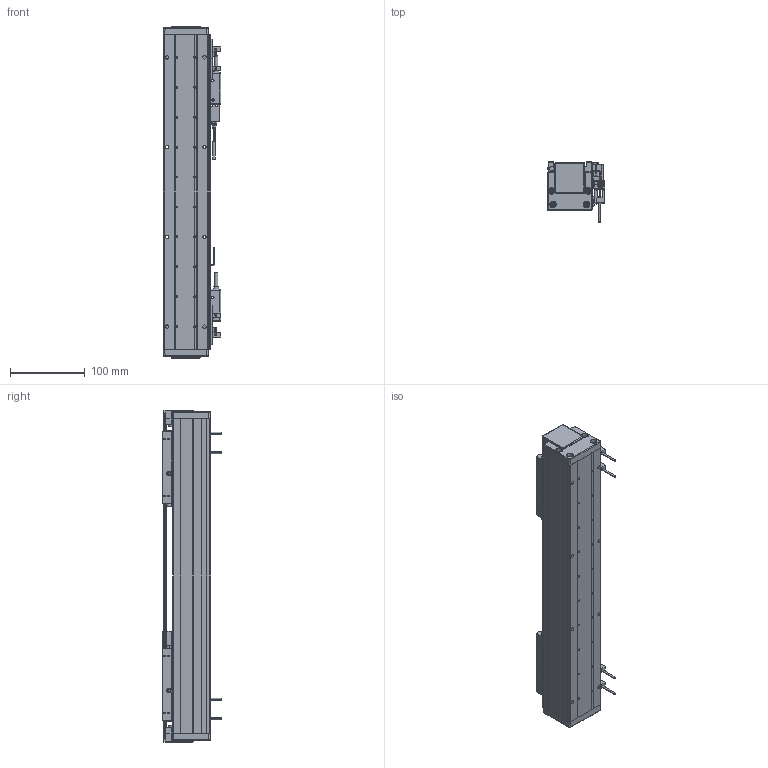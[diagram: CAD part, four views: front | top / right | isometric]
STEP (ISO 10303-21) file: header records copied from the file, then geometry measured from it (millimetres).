
FILE_DESCRIPTION (( 'STEP AP203' ), '1' );
FILE_NAME ('DA-A60-2-B1-T180-C010-0.2 眻盄萇儂.STEP', '2025-08-13T01:05:33', ( '' ), ( '' ), 'SwSTEP 2.0', 'SolidWorks 2019', '' );
FILE_SCHEMA (( 'CONFIG_CONTROL_DESIGN' ));
Length unit declared in the file: millimetre
Products named in the file (27): DA60-YT-B1-HT-B-01 珨极趙賑雄怢啣; ｸｴｼ DA-A60-GYP-DMT-00 ｹ箏邵ﾐﾓｦﾆｬ^DA-A60-2-B1-T60-C010-0.2-N(ﾄｬﾈﾏ); 葩璃 DA60-XJ-00 砎蝶結輸^DA-A60-2-B1-T60-C010-0.2-N; 复件 DA60-B1-GT-00 滑块钢轨^DA60-YT-B1-HT-B-01 一体化滑动台板; DA-A60-2-B1-T180-C010-0.2 眻盄萇儂; ｸｴｼ BAKM01-W030-C1-TP-0.2 ﾖｱﾏﾟｵ扈巐ｯﾗﾓ^DA-A60-2-B1-T60-C010-0.2-N; DA60-T-002-00  裔啣; 葩璃 DA60-DMT-DTJ-00 黍杅芛盓殤^DA-A60-2-B1-T60-C010-0.2-N; 复件 DA60-HC-XJ-01 中间缓冲橡胶^DA-A60-2-B1-T60-C010-0.2-N; DA60-YT-B1-HT-B-01 珨极趙賑雄怢啣-1; 葩璃 PM-T45^DA-A60-2-B1-T60-C010-0.2-N; 葩璃 鞠褒情蹟譫 M3^DA-A60-2-B1-T60-C010-0.2-N(GB_FASTENER_NUT_STNAB M3-C); 复件 纯铜油杯 6x6mm^AU60-V 滚珠滑台; 葩璃 DA60-DG-H-N-00 傷裔^DA-A60-2-B1-T60-C010-0.2-N; AU60-L 菁釱絳寢; ｸｴｼ DA60-GYP-ZJ-01 ﾖﾐｼ荵箏邵ﾐﾓｦﾆｬ^DA-A60-2-B1-T60-C010-0.2-N(ﾄｬﾈﾏ); 葩璃 AKM01-W030-TRL^DA-A60-2-B1-T60-C010-0.2-N; 葩璃 DA60-HK-DP-01 結え^AU60-V 幗紩賑怢; AU60-V 幗紩賑怢; 葩璃 PM-Y65^DA-A60-2-B1-T60-C010-0.2-N; 复件 DA60-GT-T-00 底座钢轨^AU60-L 底座导轨; 葩璃 XD-U-02  棠掑喜^DA-A60-2-B1-T60-C010-0.2-N; ｸｴｼ DA60-DMT-DTJ-ZJ-00 ﾖﾐｼ荼ﾁﾊﾍｷﾖｧｼﾜ^DA-A60-2-B1-T60-C010-0.2-N; AU60-V 幗紩賑怢-1; DA60-B1-HT-B-03 賑雄怢啣; IU-AU60-L-00 菁釱(420); 葩璃 DMT-010 1米m 0.2M^DA-A60-2-B1-T60-C010-0.2-N
Assembly tree (51 placements, depth 4):
  DA-A60-2-B1-T180-C010-0.2 眻盄萇儂
    AU60-L 菁釱絳寢
      IU-AU60-L-00 菁釱(420)
      复件 DA60-GT-T-00 底座钢轨^AU60-L 底座导轨  x2
    AU60-V 幗紩賑怢
      DA60-YT-B1-HT-B-01 珨极趙賑雄怢啣
        DA60-B1-HT-B-03 賑雄怢啣
        复件 DA60-B1-GT-00 滑块钢轨^DA60-YT-B1-HT-B-01 一体化滑动台板  x2
      葩璃 DA60-HK-DP-01 結え^AU60-V 幗紩賑怢  x2
      复件 纯铜油杯 6x6mm^AU60-V 滚珠滑台
    AU60-V 幗紩賑怢-1
      DA60-YT-B1-HT-B-01 珨极趙賑雄怢啣-1
        DA60-B1-HT-B-03 賑雄怢啣
        复件 DA60-B1-GT-00 滑块钢轨^DA60-YT-B1-HT-B-01 一体化滑动台板  x2
      葩璃 DA60-HK-DP-01 結え^AU60-V 幗紩賑怢  x2
      复件 纯铜油杯 6x6mm^AU60-V 滚珠滑台
    ｸｴｼ DA60-DMT-DTJ-ZJ-00 ﾖﾐｼ荼ﾁﾊﾍｷﾖｧｼﾜ^DA-A60-2-B1-T60-C010-0.2-N
    葩璃 PM-Y65^DA-A60-2-B1-T60-C010-0.2-N
    复件 DA60-HC-XJ-01 中间缓冲橡胶^DA-A60-2-B1-T60-C010-0.2-N  x2
    ｸｴｼ DA60-GYP-ZJ-01 ﾖﾐｼ荵箏邵ﾐﾓｦﾆｬ^DA-A60-2-B1-T60-C010-0.2-N(ﾄｬﾈﾏ)
    ｸｴｼ DA-A60-GYP-DMT-00 ｹ箏邵ﾐﾓｦﾆｬ^DA-A60-2-B1-T60-C010-0.2-N(ﾄｬﾈﾏ)  x2
    葩璃 DA60-DMT-DTJ-00 黍杅芛盓殤^DA-A60-2-B1-T60-C010-0.2-N
    葩璃 DMT-010 1米m 0.2M^DA-A60-2-B1-T60-C010-0.2-N  x2
    ｸｴｼ BAKM01-W030-C1-TP-0.2 ﾖｱﾏﾟｵ扈巐ｯﾗﾓ^DA-A60-2-B1-T60-C010-0.2-N  x2
    葩璃 DA60-XJ-00 砎蝶結輸^DA-A60-2-B1-T60-C010-0.2-N  x2
    葩璃 DA60-DG-H-N-00 傷裔^DA-A60-2-B1-T60-C010-0.2-N  x2
    DA60-T-002-00  裔啣
    葩璃 AKM01-W030-TRL^DA-A60-2-B1-T60-C010-0.2-N
    葩璃 PM-T45^DA-A60-2-B1-T60-C010-0.2-N  x4
    葩璃 XD-U-02  棠掑喜^DA-A60-2-B1-T60-C010-0.2-N
    葩璃 鞠褒情蹟譫 M3^DA-A60-2-B1-T60-C010-0.2-N(GB_FASTENER_NUT_STNAB M3-C)  x8
Bounding box: 76.95 x 80 x 444 mm (x, y, z)
Volume: 1137886.4 mm3; surface area: 420007.7 mm2
Topology: 57 solids, 61 shells, 3566 faces, 8981 edges, 5456 vertices
Faces by surface type: plane 1374, cylinder 1244, bspline 592, cone 342, torus 12, sphere 2
Entity records: 75817 total; most frequent: CARTESIAN_POINT 23476, ORIENTED_EDGE 10516, DIRECTION 9683, EDGE_CURVE 5258, AXIS2_PLACEMENT_3D 3365, VERTEX_POINT 3295, VECTOR 2953, LINE 2953
